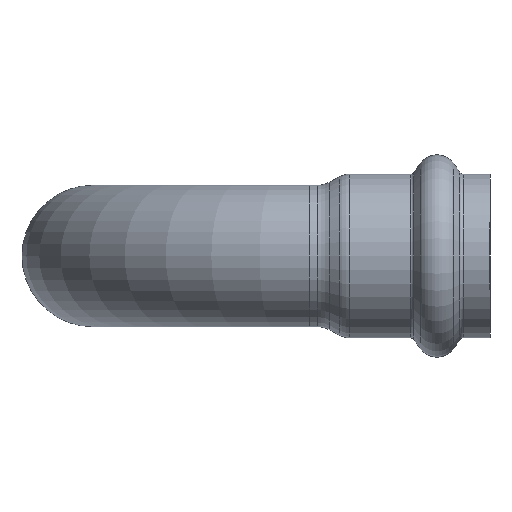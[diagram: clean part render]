
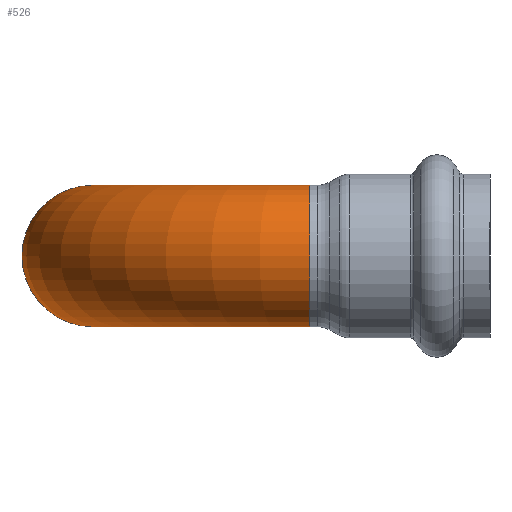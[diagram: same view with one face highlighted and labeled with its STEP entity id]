
A CAD part, left-side view. The second image highlights one B-rep face of the part: STEP entity #526.
In plain terms, the highlighted toroidal (fillet/blend) face has major radius 40.945 mm and minor radius 13.335 mm.
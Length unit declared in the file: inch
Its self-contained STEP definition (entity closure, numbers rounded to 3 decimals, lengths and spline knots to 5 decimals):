
#94=FACE_OUTER_BOUND('',#118,.T.);
#118=EDGE_LOOP('',(#359,#360,#361,#362,#363,#364));
#148=CIRCLE('',#576,0.525);
#149=CIRCLE('',#577,1.087);
#150=CIRCLE('',#578,0.525);
#151=CIRCLE('',#579,0.525);
#152=CIRCLE('',#580,0.525);
#215=VERTEX_POINT('',#912);
#216=VERTEX_POINT('',#913);
#217=VERTEX_POINT('',#915);
#218=VERTEX_POINT('',#917);
#276=EDGE_CURVE('',#215,#216,#148,.T.);
#277=EDGE_CURVE('',#216,#217,#149,.T.);
#278=EDGE_CURVE('',#217,#218,#150,.T.);
#279=EDGE_CURVE('',#218,#217,#151,.T.);
#280=EDGE_CURVE('',#216,#215,#152,.T.);
#359=ORIENTED_EDGE('',*,*,#276,.T.);
#360=ORIENTED_EDGE('',*,*,#277,.T.);
#361=ORIENTED_EDGE('',*,*,#278,.T.);
#362=ORIENTED_EDGE('',*,*,#279,.T.);
#363=ORIENTED_EDGE('',*,*,#277,.F.);
#364=ORIENTED_EDGE('',*,*,#280,.T.);
#518=TOROIDAL_SURFACE('',#575,1.612,0.525);
#526=ADVANCED_FACE('',(#94),#518,.T.);
#575=AXIS2_PLACEMENT_3D('',#911,#688,#689);
#576=AXIS2_PLACEMENT_3D('',#914,#690,#691);
#577=AXIS2_PLACEMENT_3D('',#916,#692,#693);
#578=AXIS2_PLACEMENT_3D('',#918,#694,#695);
#579=AXIS2_PLACEMENT_3D('',#919,#696,#697);
#580=AXIS2_PLACEMENT_3D('',#920,#698,#699);
#688=DIRECTION('center_axis',(0.,0.,1.));
#689=DIRECTION('ref_axis',(1.,0.,0.));
#690=DIRECTION('center_axis',(0.,1.,0.));
#691=DIRECTION('ref_axis',(1.,0.,0.));
#692=DIRECTION('center_axis',(0.,0.,-1.));
#693=DIRECTION('ref_axis',(1.,0.,0.));
#694=DIRECTION('center_axis',(-1.,0.,0.));
#695=DIRECTION('ref_axis',(0.,0.,-1.));
#696=DIRECTION('center_axis',(-1.,0.,0.));
#697=DIRECTION('ref_axis',(0.,0.,-1.));
#698=DIRECTION('center_axis',(0.,1.,0.));
#699=DIRECTION('ref_axis',(1.,0.,0.));
#911=CARTESIAN_POINT('Origin',(1.612,-1.612,0.));
#912=CARTESIAN_POINT('',(0.,-1.612,0.525));
#913=CARTESIAN_POINT('',(0.525,-1.612,0.));
#914=CARTESIAN_POINT('Origin',(0.,-1.612,0.));
#915=CARTESIAN_POINT('',(1.612,-0.525,0.));
#916=CARTESIAN_POINT('Origin',(1.612,-1.612,0.));
#917=CARTESIAN_POINT('',(1.612,0.,0.525));
#918=CARTESIAN_POINT('Origin',(1.612,0.,0.));
#919=CARTESIAN_POINT('Origin',(1.612,0.,0.));
#920=CARTESIAN_POINT('Origin',(0.,-1.612,0.));
